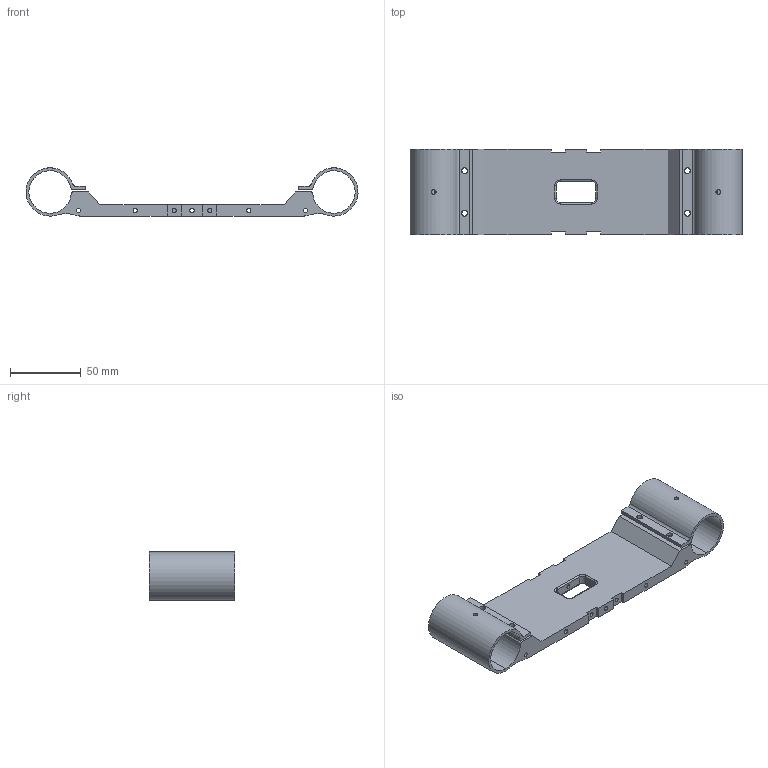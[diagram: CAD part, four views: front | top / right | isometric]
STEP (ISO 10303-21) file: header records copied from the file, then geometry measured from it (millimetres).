
FILE_DESCRIPTION (( 'STEP AP214' ), '1' );
FILE_NAME ('褐殤嘐隅-2.STEP', '2024-05-30T01:47:35', ( 'China' ), ( 'Microsoft' ), 'SwSTEP 2.0', 'SolidWorks 2021', '' );
FILE_SCHEMA (( 'AUTOMOTIVE_DESIGN' ));
Length unit declared in the file: millimetre
Products named in the file (1): 褐殤嘐隅-2
Bounding box: 233.96 x 60 x 34 mm (x, y, z)
Volume: 118692 mm3; surface area: 53083.8 mm2
Topology: 1 solids, 1 shells, 124 faces, 380 edges, 248 vertices
Faces by surface type: cylinder 74, plane 40, torus 8, bspline 2
Entity records: 4996 total; most frequent: CARTESIAN_POINT 1457, ORIENTED_EDGE 760, DIRECTION 718, EDGE_CURVE 380, AXIS2_PLACEMENT_3D 263, VERTEX_POINT 248, VECTOR 192, LINE 192
